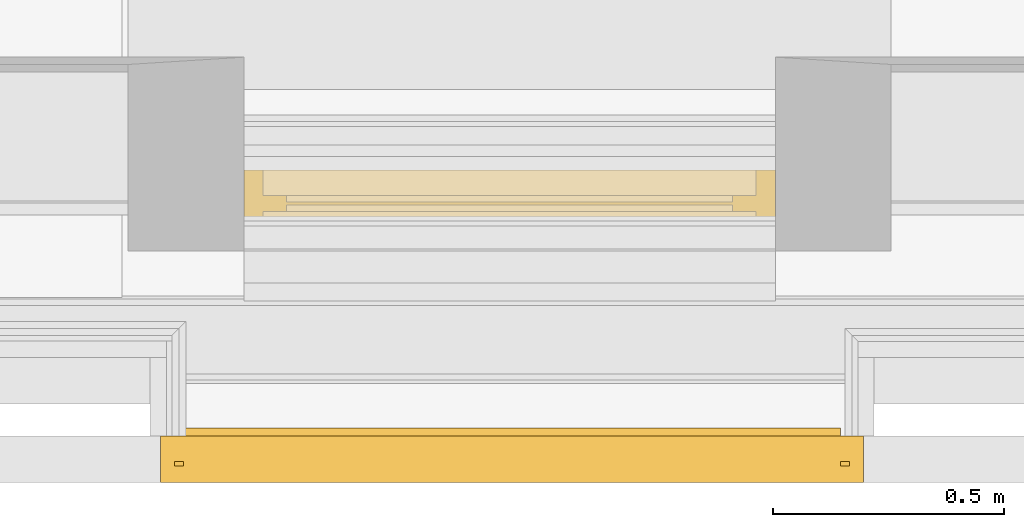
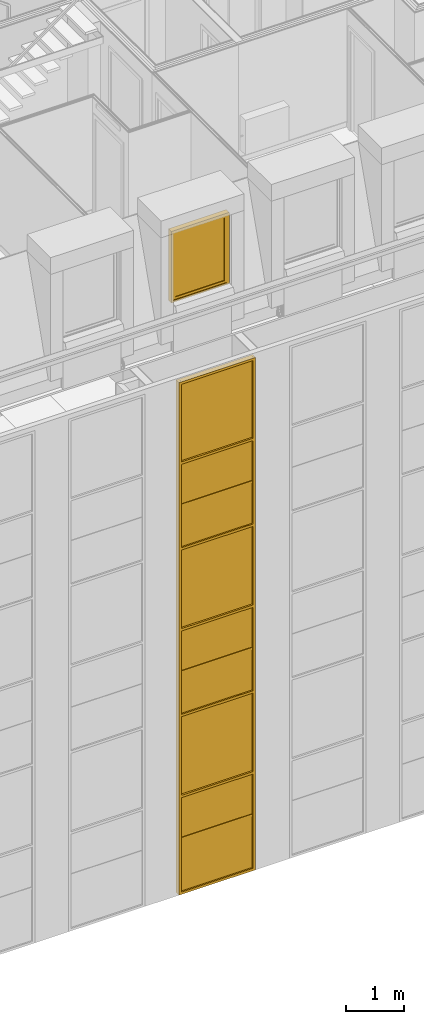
# One storey, part 93 of 169: 1 curtain wall, 1 window.
"""IFC2X3 building model written with IfcOpenShell, lengths in metres."""

import ifcopenshell
import ifcopenshell.guid

model = None  # the IFC model being written
_history = None  # IfcOwnerHistory: only IFC2X3 demands one
_inside = {}  # id of a spatial element -> (the spatial element, [elements in it])
_under = {}  # id of a project, library or spatial element -> (it, [spatial elements below it])
_declared = {}  # id of a project -> (the project, [libraries it declares])
_typed = {}  # id of a type object -> (the type object, [elements of that type])
_made_of = {}  # id of a material, layer set ... -> (it, [elements and type objects made of it])


def new_model(schema):
    """Start an empty IFC model of exactly this schema.

    Asked for "IFC4X3", IfcOpenShell would pick the latest addendum, in which some entities
    have other attributes; the version numbers below select the first issue.
    IFC2X3 requires an IfcOwnerHistory on every rooted entity: one is made here for all.
    """
    global model, _history
    if schema == "IFC4X3":
        model = ifcopenshell.file(schema_version=(4, 3, 0, 0))
    else:
        model = ifcopenshell.file(schema=schema)
    _inside.clear()
    _under.clear()
    _declared.clear()
    _typed.clear()
    _made_of.clear()
    _history = None
    if model.schema == "IFC2X3":
        org = make("IfcOrganization", Name="unknown")
        user = make(
            "IfcPersonAndOrganization",
            ThePerson=make("IfcPerson", FamilyName="unknown"),
            TheOrganization=org,
        )
        app = make(
            "IfcApplication",
            ApplicationDeveloper=org,
            Version="unknown",
            ApplicationFullName="unknown",
            ApplicationIdentifier="unknown",
        )
        _history = make(
            "IfcOwnerHistory",
            OwningUser=user,
            OwningApplication=app,
            ChangeAction="ADDED",
            CreationDate=0,
        )
    return model


def make(cls, **values):
    """One entity of the class cls with the attributes given. An attribute that is None is left unset."""
    return model.create_entity(
        cls, **{name: value for name, value in values.items() if value is not None}
    )


def entity(cls, *values):
    """Any entity or typed value of the class cls, its attributes in the order of the schema. None: left unset."""
    e = model.create_entity(cls)
    for i, value in enumerate(values):
        if value is not None:
            e[i] = value
    return e


def rooted(cls, **values):
    """An entity with a GlobalId (a new one), such as an element, a storey or a relation."""
    return make(cls, GlobalId=ifcopenshell.guid.new(), OwnerHistory=_history, **values)


def si_unit(unit_type, name, prefix=None):
    """IfcSIUnit, for example si_unit("LENGTHUNIT", "METRE", prefix="MILLI")."""
    return make("IfcSIUnit", UnitType=unit_type, Prefix=prefix, Name=name)


def converted_unit(unit_type, name, factor, base, dimensions=None, offset=None):
    """IfcConversionBasedUnit, such as the inch: factor (a typed value) times the base unit."""
    return make(
        "IfcConversionBasedUnit"
        if offset is None
        else "IfcConversionBasedUnitWithOffset",
        ConversionOffset=offset,
        Dimensions=None
        if dimensions is None
        else entity("IfcDimensionalExponents", *dimensions),
        UnitType=unit_type,
        Name=name,
        ConversionFactor=make(
            "IfcMeasureWithUnit", ValueComponent=factor, UnitComponent=base
        ),
    )


def derived_unit(unit_type, elements):
    """IfcDerivedUnit: a product of units, each with its exponent."""
    return make(
        "IfcDerivedUnit",
        Elements=[
            make("IfcDerivedUnitElement", Unit=unit, Exponent=power)
            for unit, power in elements
        ],
        UnitType=unit_type,
    )


def money_unit(currency):
    """IfcMonetaryUnit."""
    return make("IfcMonetaryUnit", Currency=currency)


def assignment(units):
    """IfcUnitAssignment: the units of a project."""
    return None if units is None else make("IfcUnitAssignment", Units=units)


def point(xyz):
    """IfcCartesianPoint."""
    return None if xyz is None else make("IfcCartesianPoint", Coordinates=xyz)


def direction(xyz):
    """IfcDirection."""
    return None if xyz is None else make("IfcDirection", DirectionRatios=xyz)


def frame(location, z_axis=None, x_axis=None):
    """IfcAxis2Placement3D, a coordinate frame: its origin and axes. An axis left out is left unset."""
    return make(
        "IfcAxis2Placement3D",
        Location=point(location),
        Axis=direction(z_axis),
        RefDirection=direction(x_axis),
    )


def origin_with_axes():
    """The frame at (0, 0, 0) with the z axis (0, 0, 1) and the x axis (1, 0, 0) written out."""
    return frame((0.0, 0.0, 0.0), z_axis=(0.0, 0.0, 1.0), x_axis=(1.0, 0.0, 0.0))


def place(relative_to, where):
    """IfcLocalPlacement: puts the frame where relative to a parent placement (None: the world)."""
    return make(
        "IfcLocalPlacement", PlacementRelTo=relative_to, RelativePlacement=where
    )


def context(
    kind, dimensions, precision=None, world=None, true_north=None, identifier=None
):
    """IfcGeometricRepresentationContext, for example the 3D "Model" context."""
    return make(
        "IfcGeometricRepresentationContext",
        ContextIdentifier=identifier,
        ContextType=kind,
        CoordinateSpaceDimension=dimensions,
        Precision=precision,
        WorldCoordinateSystem=world,
        TrueNorth=true_north,
    )


def subcontext(parent, identifier, kind, view, scale=None):
    """IfcGeometricRepresentationSubContext, for example "Body" below "Model"."""
    return make(
        "IfcGeometricRepresentationSubContext",
        ContextIdentifier=identifier,
        ContextType=kind,
        ParentContext=parent,
        TargetScale=scale,
        TargetView=view,
    )


def project(units=None, contexts=None):
    """IfcProject with its units and contexts."""
    return rooted(
        "IfcProject",
        Name="project",
        RepresentationContexts=contexts,
        UnitsInContext=assignment(units),
    )


def spatial(cls, under=None, at=None, **own):
    """A site, building, storey or space (cls), placed at a placement, below another one or the project."""
    s = rooted(cls, ObjectPlacement=at, **own)
    if under is not None:
        _under.setdefault(under.id(), (under, []))[1].append(s)
    return s


def faces_of(points, faces, orient=None, outer=None):
    """IfcFace entities. A face is a list of loops; a loop is a list of indices into points, from 0.

    orient and outer hold one flag for each loop. By default every Orientation is true, the
    first loop of a face is its IfcFaceOuterBound and the others are IfcFaceBound.
    """
    made = []
    for i, loops in enumerate(faces):
        bounds = []
        for j, loop in enumerate(loops):
            is_outer = j == 0 if outer is None else outer[i][j]
            bounds.append(
                make(
                    "IfcFaceOuterBound" if is_outer else "IfcFaceBound",
                    Bound=make("IfcPolyLoop", Polygon=[points[k] for k in loop]),
                    Orientation=True if orient is None else orient[i][j],
                )
            )
        made.append(make("IfcFace", Bounds=bounds))
    return made


def faceted_brep(points, faces, orient=None, outer=None, voids=None):
    """IfcFacetedBrep: a solid bounded by flat faces; with voids (closed shells), ...WithVoids."""
    shared = [point(p) for p in points]
    hull = make("IfcClosedShell", CfsFaces=faces_of(shared, faces, orient, outer))
    if voids is None:
        return make("IfcFacetedBrep", Outer=hull)
    return make(
        "IfcFacetedBrepWithVoids",
        Outer=hull,
        Voids=[
            make(cls, CfsFaces=faces_of(shared, fs, o, b)) for cls, fs, o, b in voids
        ],
    )


def shape(context_of_items, identifier, shape_type, items):
    """IfcShapeRepresentation: the items that make up one representation, for example the "Body"."""
    return make(
        "IfcShapeRepresentation",
        ContextOfItems=context_of_items,
        RepresentationIdentifier=identifier,
        RepresentationType=shape_type,
        Items=items,
    )


def material(Name=None, Category=None):
    """IfcMaterial."""
    return make("IfcMaterial", Name=Name, Category=Category)


def made_of(thing, what):
    """Note that an element or type object is made of a material, layer set ...; save() writes the relation."""
    if what is not None:
        _made_of.setdefault(what.id(), (what, []))[1].append(thing)
    return thing


def type_object(cls, material=None, **own):
    """A type object (cls), such as IfcWallType, which elements share."""
    return made_of(rooted(cls, **own), material)


def element(
    cls,
    number,
    at=None,
    inside=None,
    cuts=None,
    type_object=None,
    material=None,
    context=None,
    identifier="Body",
    shape_type=None,
    held_by="IfcProductDefinitionShape",
    body=None,
    shapes=None,
    **own,
):
    """One element of the class cls, such as IfcWall. Its Tag is "e" and its number.

    at: its placement. inside: the storey or other place that contains it. cuts: it is an
    opening in that element (IfcRelVoidsElement). A single representation is given by context,
    identifier, shape_type and body (its items); several are given by shapes. held_by: the class
    of the entity that holds the representations. save() writes the other relations.
    """
    e = rooted(cls, Tag="e%d" % number, ObjectPlacement=at, **own)
    if body is not None:
        shapes = [shape(context, identifier, shape_type, body)]
    if shapes is not None:
        e.Representation = make(held_by, Representations=shapes)
    if inside is not None:
        _inside.setdefault(inside.id(), (inside, []))[1].append(e)
    if cuts is not None:
        rooted(
            "IfcRelVoidsElement", RelatingBuildingElement=cuts, RelatedOpeningElement=e
        )
    if type_object is not None:
        _typed.setdefault(type_object.id(), (type_object, []))[1].append(e)
    return made_of(e, material)


def aggregate(whole, parts):
    """IfcRelAggregates: a whole, such as a stair, and the parts it consists of."""
    return rooted("IfcRelAggregates", RelatingObject=whole, RelatedObjects=parts)


def save(model, path):
    """Write the relations noted so far, then the file.

    IfcRelAggregates (storeys below a building ...), IfcRelContainedInSpatialStructure (elements
    in a storey), IfcRelDefinesByType, IfcRelAssociatesMaterial and IfcRelDeclares: one each for
    every whole, place, type object, material and project.
    """
    for whole, parts in _under.values():
        aggregate(whole, parts)
    for where, things in _inside.values():
        rooted(
            "IfcRelContainedInSpatialStructure",
            RelatedElements=things,
            RelatingStructure=where,
        )
    for kind, things in _typed.values():
        rooted("IfcRelDefinesByType", RelatedObjects=things, RelatingType=kind)
    for what, things in _made_of.values():
        rooted("IfcRelAssociatesMaterial", RelatedObjects=things, RelatingMaterial=what)
    for by, libraries in _declared.values():
        rooted("IfcRelDeclares", RelatingContext=by, RelatedDefinitions=libraries)
    model.write(path)


model = new_model("IFC2X3")

# Units and contexts
model_context = context("Model", 3, precision=1e-05, world=origin_with_axes(), true_north=direction((0.0, 1.0)))
body_context = subcontext(model_context, "Body", "Model", "MODEL_VIEW", scale=1.0)
ifc_project = project(units=[si_unit("LENGTHUNIT", "METRE"), si_unit("AREAUNIT", "SQUARE_METRE"), si_unit("VOLUMEUNIT", "CUBIC_METRE"), si_unit("ABSORBEDDOSEUNIT", "GRAY"), si_unit("AMOUNTOFSUBSTANCEUNIT", "MOLE"), si_unit("DOSEEQUIVALENTUNIT", "SIEVERT"), si_unit("ELECTRICCAPACITANCEUNIT", "FARAD"), si_unit("ELECTRICCHARGEUNIT", "COULOMB"), si_unit("ELECTRICCONDUCTANCEUNIT", "SIEMENS"), si_unit("ELECTRICCURRENTUNIT", "AMPERE"), si_unit("ELECTRICRESISTANCEUNIT", "OHM"), si_unit("ELECTRICVOLTAGEUNIT", "VOLT"), si_unit("ENERGYUNIT", "JOULE"), si_unit("FORCEUNIT", "NEWTON"), si_unit("FREQUENCYUNIT", "HERTZ"), si_unit("ILLUMINANCEUNIT", "LUX"), si_unit("INDUCTANCEUNIT", "HENRY"), si_unit("LUMINOUSFLUXUNIT", "LUMEN"), si_unit("LUMINOUSINTENSITYUNIT", "CANDELA"), si_unit("MAGNETICFLUXDENSITYUNIT", "TESLA"), si_unit("MAGNETICFLUXUNIT", "WEBER"), si_unit("MASSUNIT", "GRAM"), converted_unit("PLANEANGLEUNIT", "degree", entity("IfcReal", 0.0174532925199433), si_unit("PLANEANGLEUNIT", "RADIAN"), dimensions=[0, 0, 0, 0, 0, 0, 0]), si_unit("POWERUNIT", "WATT"), si_unit("PRESSUREUNIT", "PASCAL"), si_unit("RADIOACTIVITYUNIT", "BECQUEREL"), si_unit("SOLIDANGLEUNIT", "STERADIAN"), si_unit("THERMODYNAMICTEMPERATUREUNIT", "KELVIN"), si_unit("TIMEUNIT", "SECOND"), derived_unit("ACCELERATIONUNIT", [(si_unit("LENGTHUNIT", "METRE"), 1), (si_unit("TIMEUNIT", "SECOND"), -2)]), derived_unit("ANGULARVELOCITYUNIT", [(converted_unit("PLANEANGLEUNIT", "degree", entity("IfcReal", 0.0174532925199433), si_unit("PLANEANGLEUNIT", "RADIAN"), dimensions=[0, 0, 0, 0, 0, 0, 0]), 1), (si_unit("TIMEUNIT", "SECOND"), -1)]), derived_unit("CURVATUREUNIT", [(converted_unit("PLANEANGLEUNIT", "degree", entity("IfcReal", 0.0174532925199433), si_unit("PLANEANGLEUNIT", "RADIAN"), dimensions=[0, 0, 0, 0, 0, 0, 0]), 1), (si_unit("LENGTHUNIT", "METRE"), -1)]), derived_unit("DYNAMICVISCOSITYUNIT", [(si_unit("PRESSUREUNIT", "PASCAL"), 1), (si_unit("TIMEUNIT", "SECOND"), 1)]), derived_unit("HEATFLUXDENSITYUNIT", [(si_unit("POWERUNIT", "WATT"), 1), (si_unit("LENGTHUNIT", "METRE"), -2)]), derived_unit("HEATINGVALUEUNIT", [(si_unit("ENERGYUNIT", "JOULE"), 1), (si_unit("MASSUNIT", "GRAM"), -1)]), derived_unit("INTEGERCOUNTRATEUNIT", [(si_unit("TIMEUNIT", "SECOND"), -1)]), derived_unit("IONCONCENTRATIONUNIT", [(si_unit("MASSUNIT", "GRAM"), 1), (si_unit("VOLUMEUNIT", "CUBIC_METRE"), -1)]), derived_unit("ISOTHERMALMOISTURECAPACITYUNIT", [(si_unit("VOLUMEUNIT", "CUBIC_METRE"), 1), (si_unit("MASSUNIT", "GRAM"), -1)]), derived_unit("KINEMATICVISCOSITYUNIT", [(si_unit("AREAUNIT", "SQUARE_METRE"), 1), (si_unit("TIMEUNIT", "SECOND"), -1)]), derived_unit("LINEARFORCEUNIT", [(si_unit("FORCEUNIT", "NEWTON"), 1), (si_unit("LENGTHUNIT", "METRE"), -1)]), derived_unit("LINEARMOMENTUNIT", [(si_unit("FORCEUNIT", "NEWTON"), 1), (si_unit("LENGTHUNIT", "METRE"), -1)]), derived_unit("LINEARSTIFFNESSUNIT", [(si_unit("FORCEUNIT", "NEWTON"), 1), (si_unit("LENGTHUNIT", "METRE"), -1)]), derived_unit("LINEARVELOCITYUNIT", [(si_unit("LENGTHUNIT", "METRE"), 1), (si_unit("TIMEUNIT", "SECOND"), -1)]), derived_unit("LUMINOUSINTENSITYDISTRIBUTIONUNIT", [(si_unit("LUMINOUSINTENSITYUNIT", "CANDELA"), 1), (si_unit("LUMINOUSFLUXUNIT", "LUMEN"), -1)]), derived_unit("MASSDENSITYUNIT", [(si_unit("MASSUNIT", "GRAM"), 1), (si_unit("VOLUMEUNIT", "CUBIC_METRE"), -1)]), derived_unit("MASSFLOWRATEUNIT", [(si_unit("MASSUNIT", "GRAM"), 1), (si_unit("TIMEUNIT", "SECOND"), -1)]), derived_unit("MASSPERLENGTHUNIT", [(si_unit("MASSUNIT", "GRAM"), 1), (si_unit("LENGTHUNIT", "METRE"), -1)]), derived_unit("MODULUSOFELASTICITYUNIT", [(si_unit("FORCEUNIT", "NEWTON"), 1), (si_unit("AREAUNIT", "SQUARE_METRE"), -1)]), derived_unit("MODULUSOFLINEARSUBGRADEREACTIONUNIT", [(si_unit("FORCEUNIT", "NEWTON"), 1), (si_unit("LENGTHUNIT", "METRE"), -2)]), derived_unit("MODULUSOFROTATIONALSUBGRADEREACTIONUNIT", [(si_unit("FORCEUNIT", "NEWTON"), 1), (si_unit("LENGTHUNIT", "METRE"), 1)]), derived_unit("MODULUSOFSUBGRADEREACTIONUNIT", [(si_unit("FORCEUNIT", "NEWTON"), 1), (si_unit("VOLUMEUNIT", "CUBIC_METRE"), -1)]), derived_unit("MOISTUREDIFFUSIVITYUNIT", [(si_unit("VOLUMEUNIT", "CUBIC_METRE"), 1), (si_unit("TIMEUNIT", "SECOND"), -1)]), derived_unit("MOLECULARWEIGHTUNIT", [(si_unit("MASSUNIT", "GRAM"), 1), (si_unit("AMOUNTOFSUBSTANCEUNIT", "MOLE"), -1)]), derived_unit("PLANARFORCEUNIT", [(si_unit("FORCEUNIT", "NEWTON"), 1), (si_unit("LENGTHUNIT", "METRE"), -2)]), derived_unit("ROTATIONALFREQUENCYUNIT", [(si_unit("TIMEUNIT", "SECOND"), -1)]), derived_unit("ROTATIONALMASSUNIT", [(si_unit("MASSUNIT", "GRAM"), 1), (si_unit("LENGTHUNIT", "METRE"), 2)]), derived_unit("ROTATIONALSTIFFNESSUNIT", [(si_unit("FORCEUNIT", "NEWTON"), 1), (si_unit("LENGTHUNIT", "METRE"), 1), (converted_unit("PLANEANGLEUNIT", "degree", entity("IfcReal", 0.0174532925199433), si_unit("PLANEANGLEUNIT", "RADIAN"), dimensions=[0, 0, 0, 0, 0, 0, 0]), -1)]), derived_unit("SECTIONAREAINTEGRALUNIT", [(si_unit("LENGTHUNIT", "METRE"), 5)]), derived_unit("SECTIONMODULUSUNIT", [(si_unit("LENGTHUNIT", "METRE"), 3)]), derived_unit("SHEARMODULUSUNIT", [(si_unit("FORCEUNIT", "NEWTON"), 1), (si_unit("AREAUNIT", "SQUARE_METRE"), -1)]), derived_unit("SOUNDPOWERUNIT", [(si_unit("ENERGYUNIT", "JOULE"), 1), (si_unit("TIMEUNIT", "SECOND"), -1)]), derived_unit("SPECIFICHEATCAPACITYUNIT", [(si_unit("FORCEUNIT", "NEWTON"), 1), (si_unit("MASSUNIT", "GRAM"), -1), (si_unit("THERMODYNAMICTEMPERATUREUNIT", "KELVIN"), -1)]), derived_unit("TEMPERATUREGRADIENTUNIT", [(si_unit("THERMODYNAMICTEMPERATUREUNIT", "KELVIN"), 1), (si_unit("LENGTHUNIT", "METRE"), -1)]), derived_unit("THERMALADMITTANCEUNIT", [(si_unit("POWERUNIT", "WATT"), 1), (si_unit("AREAUNIT", "SQUARE_METRE"), -1), (si_unit("THERMODYNAMICTEMPERATUREUNIT", "KELVIN"), -1)]), derived_unit("THERMALCONDUCTANCEUNIT", [(si_unit("POWERUNIT", "WATT"), 1), (si_unit("LENGTHUNIT", "METRE"), -1), (si_unit("THERMODYNAMICTEMPERATUREUNIT", "KELVIN"), -1)]), derived_unit("THERMALEXPANSIONCOEFFICIENTUNIT", [(si_unit("THERMODYNAMICTEMPERATUREUNIT", "KELVIN"), -1)]), derived_unit("THERMALRESISTANCEUNIT", [(si_unit("AREAUNIT", "SQUARE_METRE"), 1), (si_unit("POWERUNIT", "WATT"), -1)]), derived_unit("THERMALTRANSMITTANCEUNIT", [(si_unit("POWERUNIT", "WATT"), 1), (si_unit("AREAUNIT", "SQUARE_METRE"), -1), (si_unit("THERMODYNAMICTEMPERATUREUNIT", "KELVIN"), -1)]), derived_unit("TORQUEUNIT", [(si_unit("FORCEUNIT", "NEWTON"), 1), (si_unit("LENGTHUNIT", "METRE"), 1)]), derived_unit("VAPORPERMEABILITYUNIT", [(si_unit("MASSUNIT", "GRAM"), 1), (si_unit("TIMEUNIT", "SECOND"), -1)]), derived_unit("VOLUMETRICFLOWRATEUNIT", [(si_unit("VOLUMEUNIT", "CUBIC_METRE"), 1), (si_unit("TIMEUNIT", "SECOND"), -1)]), derived_unit("WARPINGCONSTANTUNIT", [(si_unit("LENGTHUNIT", "METRE"), 6)]), derived_unit("WARPINGMOMENTUNIT", [(si_unit("FORCEUNIT", "NEWTON"), 1), (si_unit("LENGTHUNIT", "METRE"), 2)]), money_unit("GBP")], contexts=[model_context])

# Site, building, storey
site_placement = place(None, origin_with_axes())
site = spatial("IfcSite", under=ifc_project, at=site_placement, Name="Site", CompositionType="ELEMENT")
building_placement = place(site_placement, origin_with_axes())
building = spatial("IfcBuilding", under=site, at=building_placement, Name="Building01", CompositionType="ELEMENT")
storey_placement = place(building_placement, frame((0.0, 0.0, 5.15), z_axis=(0.0, 0.0, 1.0), x_axis=(1.0, 0.0, 0.0)))
storey = spatial("IfcBuildingStorey", under=building, at=storey_placement, Name="1F", CompositionType="ELEMENT", Elevation=5.15)

# Curtain wall
ifc_material_1 = material(Name="A-CurtainWall_Frame")
curtain_wall_type = type_object("IfcCurtainWallType", Name="Pattern - Maximum Spacing", PredefinedType="NOTDEFINED")
curtain_wall_placement = place(storey_placement, frame((0.0, 0.0, -5.15), z_axis=(0.0, 0.0, 1.0), x_axis=(1.0, 0.0, 0.0)))
element("IfcCurtainWall", 1, at=curtain_wall_placement, inside=storey, type_object=curtain_wall_type, material=ifc_material_1, Name="18", ObjectType="Pattern - Maximum Spacing", context=body_context, shape_type="Brep", body=[
    faceted_brep([(5.11, 0.05, 4.0), (5.11, 0.03, 4.0), (5.11, 0.03, 5.118945), (5.11, 0.05, 5.118945), (6.57, 0.05, 4.0), (6.57, 0.03, 4.0), (6.57, 0.05, 5.118945), (6.57, 0.03, 5.118945)], [[[0, 1, 2, 3]], [[4, 5, 1, 0]], [[6, 7, 5, 4]], [[3, 2, 7, 6]], [[1, 5, 7, 2]], [[3, 6, 4, 0]]]),
    faceted_brep([(5.13, 0.045, 3.97), (5.11, 0.045, 3.97), (5.11, 0.035, 3.97), (5.13, 0.035, 3.97), (5.13, 0.0, 3.97), (5.08, 0.0, 3.97), (5.08, 0.1, 3.97), (5.13, 0.1, 3.97), (5.13, 0.1, 5.123945), (5.13, 0.045, 5.123945), (5.11, 0.045, 5.123945), (5.11, 0.035, 5.123945), (5.13, 0.035, 5.123945), (5.13, 0.0, 5.123945), (5.08, 0.0, 5.123945), (5.08, 0.1, 5.123945)], [[[0, 1, 2, 3, 4, 5, 6, 7]], [[7, 8, 9, 0]], [[0, 9, 10, 1]], [[1, 10, 11, 2]], [[2, 11, 12, 3]], [[3, 12, 13, 4]], [[4, 13, 14, 5]], [[5, 14, 15, 6]], [[6, 15, 8, 7]]]),
    faceted_brep([(6.55, 0.045, 4.0), (6.55, 0.035, 4.0), (6.55, 0.035, 4.02), (6.55, 0.0, 4.02), (6.55, 0.0, 3.97), (6.55, 0.1, 3.97), (6.55, 0.1, 4.02), (6.55, 0.045, 4.02), (5.13, 0.045, 4.02), (5.13, 0.045, 4.0), (5.13, 0.035, 4.0), (5.13, 0.035, 4.02), (5.13, 0.0, 4.02), (5.13, 0.0, 3.97), (5.13, 0.1, 3.97), (5.13, 0.1, 4.02)], [[[0, 1, 2, 3, 4, 5, 6, 7]], [[7, 8, 9, 0]], [[0, 9, 10, 1]], [[1, 10, 11, 2]], [[2, 11, 12, 3]], [[3, 12, 13, 4]], [[4, 13, 14, 5]], [[5, 14, 15, 6]], [[6, 15, 8, 7]], [[8, 15, 14, 13, 12, 11, 10, 9]]]),
    faceted_brep([(6.55, 0.045, 3.97), (6.55, 0.045, 5.123945), (6.55, 0.1, 5.123945), (6.55, 0.1, 3.97), (6.57, 0.045, 3.97), (6.57, 0.045, 5.123945), (6.57, 0.035, 3.97), (6.57, 0.035, 5.123945), (6.55, 0.035, 3.97), (6.55, 0.035, 5.123945), (6.55, 0.0, 3.97), (6.55, 0.0, 5.123945), (6.6, 0.0, 3.97), (6.6, 0.0, 5.123945), (6.6, 0.1, 3.97), (6.6, 0.1, 5.123945)], [[[0, 1, 2, 3]], [[4, 5, 1, 0]], [[6, 7, 5, 4]], [[8, 9, 7, 6]], [[10, 11, 9, 8]], [[12, 13, 11, 10]], [[14, 15, 13, 12]], [[3, 2, 15, 14]], [[14, 12, 10, 8, 6, 4, 0, 3]]]),
    faceted_brep([(5.13, 0.0625, 5.118945), (5.13, 0.0525, 5.118945), (5.13, 0.0525, 5.098945), (5.13, 0.0175, 5.098945), (5.13, 0.0175, 5.148945), (5.13, 0.0525, 5.148945), (5.13, 0.0525, 5.128945), (5.13, 0.0625, 5.128945), (5.13, 0.0625, 5.148945), (5.13, 0.1175, 5.148945), (5.13, 0.1175, 5.098945), (5.13, 0.0625, 5.098945), (6.55, 0.0625, 5.098945), (6.55, 0.0625, 5.118945), (6.55, 0.0525, 5.118945), (6.55, 0.0525, 5.098945), (6.55, 0.0175, 5.098945), (6.55, 0.0175, 5.148945), (6.55, 0.0525, 5.148945), (6.55, 0.0625, 5.128945), (6.55, 0.0625, 5.148945), (6.55, 0.0525, 5.128945), (6.55, 0.1175, 5.098945), (6.55, 0.1175, 5.148945)], [[[0, 1, 2, 3, 4, 5, 6, 7, 8, 9, 10, 11]], [[11, 12, 13, 0]], [[0, 13, 14, 1]], [[1, 14, 15, 2]], [[2, 15, 16, 3]], [[3, 16, 17, 4]], [[4, 17, 18, 5]], [[7, 19, 20, 8]], [[6, 21, 19, 7]], [[5, 18, 21, 6]], [[10, 22, 12, 11]], [[9, 23, 22, 10]], [[8, 20, 23, 9]], [[20, 19, 21, 18, 17, 16, 15, 14, 13, 12, 22, 23]]]),
    faceted_brep([(5.11, 0.05, 5.128945), (5.11, 0.03, 5.128945), (5.11, 0.03, 6.018105), (5.11, 0.05, 6.018105), (6.57, 0.05, 5.128945), (6.57, 0.03, 5.128945), (6.57, 0.05, 6.018105), (6.57, 0.03, 6.018105)], [[[0, 1, 2, 3]], [[4, 5, 1, 0]], [[6, 7, 5, 4]], [[3, 2, 7, 6]], [[1, 5, 7, 2]], [[3, 6, 4, 0]]]),
    faceted_brep([(5.08, 0.1, 6.023105), (5.08, 0.1, 5.123945), (5.08, 0.0, 5.123945), (5.08, 0.0, 6.023105), (5.13, 0.1, 6.023105), (5.13, 0.1, 5.123945), (5.13, 0.045, 6.023105), (5.13, 0.045, 5.123945), (5.11, 0.045, 6.023105), (5.11, 0.045, 5.123945), (5.11, 0.035, 6.023105), (5.11, 0.035, 5.123945), (5.13, 0.035, 6.023105), (5.13, 0.035, 5.123945), (5.13, 0.0, 6.023105), (5.13, 0.0, 5.123945)], [[[0, 1, 2, 3]], [[4, 5, 1, 0]], [[6, 7, 5, 4]], [[8, 9, 7, 6]], [[10, 11, 9, 8]], [[12, 13, 11, 10]], [[14, 15, 13, 12]], [[3, 2, 15, 14]]]),
    faceted_brep([(6.55, 0.045, 5.123945), (6.55, 0.045, 6.023105), (6.55, 0.1, 6.023105), (6.55, 0.1, 5.123945), (6.57, 0.045, 5.123945), (6.57, 0.045, 6.023105), (6.57, 0.035, 5.123945), (6.57, 0.035, 6.023105), (6.55, 0.035, 5.123945), (6.55, 0.035, 6.023105), (6.55, 0.0, 5.123945), (6.55, 0.0, 6.023105), (6.6, 0.0, 5.123945), (6.6, 0.0, 6.023105), (6.6, 0.1, 5.123945), (6.6, 0.1, 6.023105)], [[[0, 1, 2, 3]], [[4, 5, 1, 0]], [[6, 7, 5, 4]], [[8, 9, 7, 6]], [[10, 11, 9, 8]], [[12, 13, 11, 10]], [[14, 15, 13, 12]], [[3, 2, 15, 14]]]),
    faceted_brep([(5.13, 0.045, 6.018105), (5.13, 0.035, 6.018105), (5.13, 0.035, 5.998105), (5.13, 0.0, 5.998105), (5.13, 0.0, 6.048105), (5.13, 0.035, 6.048105), (5.13, 0.035, 6.028105), (5.13, 0.045, 6.028105), (5.13, 0.045, 6.048105), (5.13, 0.1, 6.048105), (5.13, 0.1, 5.998105), (5.13, 0.045, 5.998105), (6.55, 0.045, 5.998105), (6.55, 0.045, 6.018105), (6.55, 0.035, 6.018105), (6.55, 0.035, 5.998105), (6.55, 0.0, 5.998105), (6.55, 0.0, 6.048105), (6.55, 0.035, 6.048105), (6.55, 0.045, 6.028105), (6.55, 0.045, 6.048105), (6.55, 0.035, 6.028105), (6.55, 0.1, 5.998105), (6.55, 0.1, 6.048105)], [[[0, 1, 2, 3, 4, 5, 6, 7, 8, 9, 10, 11]], [[11, 12, 13, 0]], [[0, 13, 14, 1]], [[1, 14, 15, 2]], [[2, 15, 16, 3]], [[3, 16, 17, 4]], [[4, 17, 18, 5]], [[7, 19, 20, 8]], [[6, 21, 19, 7]], [[5, 18, 21, 6]], [[10, 22, 12, 11]], [[9, 23, 22, 10]], [[8, 20, 23, 9]], [[20, 19, 21, 18, 17, 16, 15, 14, 13, 12, 22, 23]]]),
    faceted_brep([(5.11, 0.045, 6.028105), (5.11, 0.035, 6.028105), (5.11, 0.035, 7.716517), (5.11, 0.045, 7.716517), (6.57, 0.045, 6.028105), (6.57, 0.035, 6.028105), (6.57, 0.045, 7.716517), (6.57, 0.035, 7.716517)], [[[0, 1, 2, 3]], [[4, 5, 1, 0]], [[6, 7, 5, 4]], [[3, 2, 7, 6]], [[1, 5, 7, 2]], [[3, 6, 4, 0]]]),
    faceted_brep([(5.08, 0.1, 7.721517), (5.08, 0.1, 6.023105), (5.08, 0.0, 6.023105), (5.08, 0.0, 7.721517), (5.13, 0.1, 7.721517), (5.13, 0.1, 6.023105), (5.13, 0.045, 7.721517), (5.13, 0.045, 6.023105), (5.11, 0.045, 7.721517), (5.11, 0.045, 6.023105), (5.11, 0.035, 7.721517), (5.11, 0.035, 6.023105), (5.13, 0.035, 7.721517), (5.13, 0.035, 6.023105), (5.13, 0.0, 7.721517), (5.13, 0.0, 6.023105)], [[[0, 1, 2, 3]], [[4, 5, 1, 0]], [[6, 7, 5, 4]], [[8, 9, 7, 6]], [[10, 11, 9, 8]], [[12, 13, 11, 10]], [[14, 15, 13, 12]], [[3, 2, 15, 14]]]),
    faceted_brep([(6.55, 0.045, 6.023105), (6.55, 0.045, 7.721517), (6.55, 0.1, 7.721517), (6.55, 0.1, 6.023105), (6.57, 0.045, 6.023105), (6.57, 0.045, 7.721517), (6.57, 0.035, 6.023105), (6.57, 0.035, 7.721517), (6.55, 0.035, 6.023105), (6.55, 0.035, 7.721517), (6.55, 0.0, 6.023105), (6.55, 0.0, 7.721517), (6.6, 0.0, 6.023105), (6.6, 0.0, 7.721517), (6.6, 0.1, 6.023105), (6.6, 0.1, 7.721517)], [[[0, 1, 2, 3]], [[4, 5, 1, 0]], [[6, 7, 5, 4]], [[8, 9, 7, 6]], [[10, 11, 9, 8]], [[12, 13, 11, 10]], [[14, 15, 13, 12]], [[3, 2, 15, 14]]]),
    faceted_brep([(5.13, 0.045, 7.716517), (5.13, 0.035, 7.716517), (5.13, 0.035, 7.696517), (5.13, 0.0, 7.696517), (5.13, 0.0, 7.746517), (5.13, 0.035, 7.746517), (5.13, 0.035, 7.726517), (5.13, 0.045, 7.726517), (5.13, 0.045, 7.746517), (5.13, 0.1, 7.746517), (5.13, 0.1, 7.696517), (5.13, 0.045, 7.696517), (6.55, 0.045, 7.696517), (6.55, 0.045, 7.716517), (6.55, 0.035, 7.716517), (6.55, 0.035, 7.696517), (6.55, 0.0, 7.696517), (6.55, 0.0, 7.746517), (6.55, 0.035, 7.746517), (6.55, 0.045, 7.726517), (6.55, 0.045, 7.746517), (6.55, 0.035, 7.726517), (6.55, 0.1, 7.696517), (6.55, 0.1, 7.746517)], [[[0, 1, 2, 3, 4, 5, 6, 7, 8, 9, 10, 11]], [[11, 12, 13, 0]], [[0, 13, 14, 1]], [[1, 14, 15, 2]], [[2, 15, 16, 3]], [[3, 16, 17, 4]], [[4, 17, 18, 5]], [[7, 19, 20, 8]], [[6, 21, 19, 7]], [[5, 18, 21, 6]], [[10, 22, 12, 11]], [[9, 23, 22, 10]], [[8, 20, 23, 9]], [[20, 19, 21, 18, 17, 16, 15, 14, 13, 12, 22, 23]]]),
    faceted_brep([(5.11, 0.05, 7.726517), (5.11, 0.03, 7.726517), (5.11, 0.03, 8.615677), (5.11, 0.05, 8.615677), (6.57, 0.05, 7.726517), (6.57, 0.03, 7.726517), (6.57, 0.05, 8.615677), (6.57, 0.03, 8.615677)], [[[0, 1, 2, 3]], [[4, 5, 1, 0]], [[6, 7, 5, 4]], [[3, 2, 7, 6]], [[1, 5, 7, 2]], [[3, 6, 4, 0]]]),
    faceted_brep([(5.08, 0.1, 8.620677), (5.08, 0.1, 7.721517), (5.08, 0.0, 7.721517), (5.08, 0.0, 8.620677), (5.13, 0.1, 8.620677), (5.13, 0.1, 7.721517), (5.13, 0.045, 8.620677), (5.13, 0.045, 7.721517), (5.11, 0.045, 8.620677), (5.11, 0.045, 7.721517), (5.11, 0.035, 8.620677), (5.11, 0.035, 7.721517), (5.13, 0.035, 8.620677), (5.13, 0.035, 7.721517), (5.13, 0.0, 8.620677), (5.13, 0.0, 7.721517)], [[[0, 1, 2, 3]], [[4, 5, 1, 0]], [[6, 7, 5, 4]], [[8, 9, 7, 6]], [[10, 11, 9, 8]], [[12, 13, 11, 10]], [[14, 15, 13, 12]], [[3, 2, 15, 14]]]),
    faceted_brep([(6.55, 0.045, 7.721517), (6.55, 0.045, 8.620677), (6.55, 0.1, 8.620677), (6.55, 0.1, 7.721517), (6.57, 0.045, 7.721517), (6.57, 0.045, 8.620677), (6.57, 0.035, 7.721517), (6.57, 0.035, 8.620677), (6.55, 0.035, 7.721517), (6.55, 0.035, 8.620677), (6.55, 0.0, 7.721517), (6.55, 0.0, 8.620677), (6.6, 0.0, 7.721517), (6.6, 0.0, 8.620677), (6.6, 0.1, 7.721517), (6.6, 0.1, 8.620677)], [[[0, 1, 2, 3]], [[4, 5, 1, 0]], [[6, 7, 5, 4]], [[8, 9, 7, 6]], [[10, 11, 9, 8]], [[12, 13, 11, 10]], [[14, 15, 13, 12]], [[3, 2, 15, 14]]]),
    faceted_brep([(5.13, 0.0625, 8.615677), (5.13, 0.0525, 8.615677), (5.13, 0.0525, 8.595677), (5.13, 0.0175, 8.595677), (5.13, 0.0175, 8.645677), (5.13, 0.0525, 8.645677), (5.13, 0.0525, 8.625677), (5.13, 0.0625, 8.625677), (5.13, 0.0625, 8.645677), (5.13, 0.1175, 8.645677), (5.13, 0.1175, 8.595677), (5.13, 0.0625, 8.595677), (6.55, 0.0625, 8.595677), (6.55, 0.0625, 8.615677), (6.55, 0.0525, 8.615677), (6.55, 0.0525, 8.595677), (6.55, 0.0175, 8.595677), (6.55, 0.0175, 8.645677), (6.55, 0.0525, 8.645677), (6.55, 0.0625, 8.625677), (6.55, 0.0625, 8.645677), (6.55, 0.0525, 8.625677), (6.55, 0.1175, 8.595677), (6.55, 0.1175, 8.645677)], [[[0, 1, 2, 3, 4, 5, 6, 7, 8, 9, 10, 11]], [[11, 12, 13, 0]], [[0, 13, 14, 1]], [[1, 14, 15, 2]], [[2, 15, 16, 3]], [[3, 16, 17, 4]], [[4, 17, 18, 5]], [[7, 19, 20, 8]], [[6, 21, 19, 7]], [[5, 18, 21, 6]], [[10, 22, 12, 11]], [[9, 23, 22, 10]], [[8, 20, 23, 9]], [[20, 19, 21, 18, 17, 16, 15, 14, 13, 12, 22, 23]]]),
    faceted_brep([(5.11, 0.05, 8.625677), (5.11, 0.03, 8.625677), (5.11, 0.03, 9.514837), (5.11, 0.05, 9.514837), (6.57, 0.05, 8.625677), (6.57, 0.03, 8.625677), (6.57, 0.05, 9.514837), (6.57, 0.03, 9.514837)], [[[0, 1, 2, 3]], [[4, 5, 1, 0]], [[6, 7, 5, 4]], [[3, 2, 7, 6]], [[1, 5, 7, 2]], [[3, 6, 4, 0]]]),
    faceted_brep([(5.08, 0.1, 9.519837), (5.08, 0.1, 8.620677), (5.08, 0.0, 8.620677), (5.08, 0.0, 9.519837), (5.13, 0.1, 9.519837), (5.13, 0.1, 8.620677), (5.13, 0.045, 9.519837), (5.13, 0.045, 8.620677), (5.11, 0.045, 9.519837), (5.11, 0.045, 8.620677), (5.11, 0.035, 9.519837), (5.11, 0.035, 8.620677), (5.13, 0.035, 9.519837), (5.13, 0.035, 8.620677), (5.13, 0.0, 9.519837), (5.13, 0.0, 8.620677)], [[[0, 1, 2, 3]], [[4, 5, 1, 0]], [[6, 7, 5, 4]], [[8, 9, 7, 6]], [[10, 11, 9, 8]], [[12, 13, 11, 10]], [[14, 15, 13, 12]], [[3, 2, 15, 14]]]),
    faceted_brep([(6.55, 0.045, 8.620677), (6.55, 0.045, 9.519837), (6.55, 0.1, 9.519837), (6.55, 0.1, 8.620677), (6.57, 0.045, 8.620677), (6.57, 0.045, 9.519837), (6.57, 0.035, 8.620677), (6.57, 0.035, 9.519837), (6.55, 0.035, 8.620677), (6.55, 0.035, 9.519837), (6.55, 0.0, 8.620677), (6.55, 0.0, 9.519837), (6.6, 0.0, 8.620677), (6.6, 0.0, 9.519837), (6.6, 0.1, 8.620677), (6.6, 0.1, 9.519837)], [[[0, 1, 2, 3]], [[4, 5, 1, 0]], [[6, 7, 5, 4]], [[8, 9, 7, 6]], [[10, 11, 9, 8]], [[12, 13, 11, 10]], [[14, 15, 13, 12]], [[3, 2, 15, 14]]]),
    faceted_brep([(5.13, 0.045, 9.514837), (5.13, 0.035, 9.514837), (5.13, 0.035, 9.494837), (5.13, 0.0, 9.494837), (5.13, 0.0, 9.544837), (5.13, 0.035, 9.544837), (5.13, 0.035, 9.524837), (5.13, 0.045, 9.524837), (5.13, 0.045, 9.544837), (5.13, 0.1, 9.544837), (5.13, 0.1, 9.494837), (5.13, 0.045, 9.494837), (6.55, 0.045, 9.494837), (6.55, 0.045, 9.514837), (6.55, 0.035, 9.514837), (6.55, 0.035, 9.494837), (6.55, 0.0, 9.494837), (6.55, 0.0, 9.544837), (6.55, 0.035, 9.544837), (6.55, 0.045, 9.524837), (6.55, 0.045, 9.544837), (6.55, 0.035, 9.524837), (6.55, 0.1, 9.494837), (6.55, 0.1, 9.544837)], [[[0, 1, 2, 3, 4, 5, 6, 7, 8, 9, 10, 11]], [[11, 12, 13, 0]], [[0, 13, 14, 1]], [[1, 14, 15, 2]], [[2, 15, 16, 3]], [[3, 16, 17, 4]], [[4, 17, 18, 5]], [[7, 19, 20, 8]], [[6, 21, 19, 7]], [[5, 18, 21, 6]], [[10, 22, 12, 11]], [[9, 23, 22, 10]], [[8, 20, 23, 9]], [[20, 19, 21, 18, 17, 16, 15, 14, 13, 12, 22, 23]]]),
    faceted_brep([(5.11, 0.045, 9.524837), (5.11, 0.035, 9.524837), (5.11, 0.035, 11.213249), (5.11, 0.045, 11.213249), (6.57, 0.045, 9.524837), (6.57, 0.035, 9.524837), (6.57, 0.045, 11.213249), (6.57, 0.035, 11.213249)], [[[0, 1, 2, 3]], [[4, 5, 1, 0]], [[6, 7, 5, 4]], [[3, 2, 7, 6]], [[1, 5, 7, 2]], [[3, 6, 4, 0]]]),
    faceted_brep([(5.08, 0.1, 11.218249), (5.08, 0.1, 9.519837), (5.08, 0.0, 9.519837), (5.08, 0.0, 11.218249), (5.13, 0.1, 11.218249), (5.13, 0.1, 9.519837), (5.13, 0.045, 11.218249), (5.13, 0.045, 9.519837), (5.11, 0.045, 11.218249), (5.11, 0.045, 9.519837), (5.11, 0.035, 11.218249), (5.11, 0.035, 9.519837), (5.13, 0.035, 11.218249), (5.13, 0.035, 9.519837), (5.13, 0.0, 11.218249), (5.13, 0.0, 9.519837)], [[[0, 1, 2, 3]], [[4, 5, 1, 0]], [[6, 7, 5, 4]], [[8, 9, 7, 6]], [[10, 11, 9, 8]], [[12, 13, 11, 10]], [[14, 15, 13, 12]], [[3, 2, 15, 14]]]),
    faceted_brep([(6.55, 0.045, 9.519837), (6.55, 0.045, 11.218249), (6.55, 0.1, 11.218249), (6.55, 0.1, 9.519837), (6.57, 0.045, 9.519837), (6.57, 0.045, 11.218249), (6.57, 0.035, 9.519837), (6.57, 0.035, 11.218249), (6.55, 0.035, 9.519837), (6.55, 0.035, 11.218249), (6.55, 0.0, 9.519837), (6.55, 0.0, 11.218249), (6.6, 0.0, 9.519837), (6.6, 0.0, 11.218249), (6.6, 0.1, 9.519837), (6.6, 0.1, 11.218249)], [[[0, 1, 2, 3]], [[4, 5, 1, 0]], [[6, 7, 5, 4]], [[8, 9, 7, 6]], [[10, 11, 9, 8]], [[12, 13, 11, 10]], [[14, 15, 13, 12]], [[3, 2, 15, 14]]]),
    faceted_brep([(5.13, 0.045, 11.213249), (5.13, 0.035, 11.213249), (5.13, 0.035, 11.193249), (5.13, 0.0, 11.193249), (5.13, 0.0, 11.243249), (5.13, 0.035, 11.243249), (5.13, 0.035, 11.223249), (5.13, 0.045, 11.223249), (5.13, 0.045, 11.243249), (5.13, 0.1, 11.243249), (5.13, 0.1, 11.193249), (5.13, 0.045, 11.193249), (6.55, 0.045, 11.193249), (6.55, 0.045, 11.213249), (6.55, 0.035, 11.213249), (6.55, 0.035, 11.193249), (6.55, 0.0, 11.193249), (6.55, 0.0, 11.243249), (6.55, 0.035, 11.243249), (6.55, 0.045, 11.223249), (6.55, 0.045, 11.243249), (6.55, 0.035, 11.223249), (6.55, 0.1, 11.193249), (6.55, 0.1, 11.243249)], [[[0, 1, 2, 3, 4, 5, 6, 7, 8, 9, 10, 11]], [[11, 12, 13, 0]], [[0, 13, 14, 1]], [[1, 14, 15, 2]], [[2, 15, 16, 3]], [[3, 16, 17, 4]], [[4, 17, 18, 5]], [[7, 19, 20, 8]], [[6, 21, 19, 7]], [[5, 18, 21, 6]], [[10, 22, 12, 11]], [[9, 23, 22, 10]], [[8, 20, 23, 9]], [[20, 19, 21, 18, 17, 16, 15, 14, 13, 12, 22, 23]]]),
    faceted_brep([(5.11, 0.05, 11.223249), (5.11, 0.03, 11.223249), (5.11, 0.03, 12.112409), (5.11, 0.05, 12.112409), (6.57, 0.05, 11.223249), (6.57, 0.03, 11.223249), (6.57, 0.05, 12.112409), (6.57, 0.03, 12.112409)], [[[0, 1, 2, 3]], [[4, 5, 1, 0]], [[6, 7, 5, 4]], [[3, 2, 7, 6]], [[1, 5, 7, 2]], [[3, 6, 4, 0]]]),
    faceted_brep([(5.08, 0.1, 12.117409), (5.08, 0.1, 11.218249), (5.08, 0.0, 11.218249), (5.08, 0.0, 12.117409), (5.13, 0.1, 12.117409), (5.13, 0.1, 11.218249), (5.13, 0.045, 12.117409), (5.13, 0.045, 11.218249), (5.11, 0.045, 12.117409), (5.11, 0.045, 11.218249), (5.11, 0.035, 12.117409), (5.11, 0.035, 11.218249), (5.13, 0.035, 12.117409), (5.13, 0.035, 11.218249), (5.13, 0.0, 12.117409), (5.13, 0.0, 11.218249)], [[[0, 1, 2, 3]], [[4, 5, 1, 0]], [[6, 7, 5, 4]], [[8, 9, 7, 6]], [[10, 11, 9, 8]], [[12, 13, 11, 10]], [[14, 15, 13, 12]], [[3, 2, 15, 14]]]),
    faceted_brep([(6.55, 0.045, 11.218249), (6.55, 0.045, 12.117409), (6.55, 0.1, 12.117409), (6.55, 0.1, 11.218249), (6.57, 0.045, 11.218249), (6.57, 0.045, 12.117409), (6.57, 0.035, 11.218249), (6.57, 0.035, 12.117409), (6.55, 0.035, 11.218249), (6.55, 0.035, 12.117409), (6.55, 0.0, 11.218249), (6.55, 0.0, 12.117409), (6.6, 0.0, 11.218249), (6.6, 0.0, 12.117409), (6.6, 0.1, 11.218249), (6.6, 0.1, 12.117409)], [[[0, 1, 2, 3]], [[4, 5, 1, 0]], [[6, 7, 5, 4]], [[8, 9, 7, 6]], [[10, 11, 9, 8]], [[12, 13, 11, 10]], [[14, 15, 13, 12]], [[3, 2, 15, 14]]]),
    faceted_brep([(5.13, 0.0625, 12.112409), (5.13, 0.0525, 12.112409), (5.13, 0.0525, 12.092409), (5.13, 0.0175, 12.092409), (5.13, 0.0175, 12.142409), (5.13, 0.0525, 12.142409), (5.13, 0.0525, 12.122409), (5.13, 0.0625, 12.122409), (5.13, 0.0625, 12.142409), (5.13, 0.1175, 12.142409), (5.13, 0.1175, 12.092409), (5.13, 0.0625, 12.092409), (6.55, 0.0625, 12.092409), (6.55, 0.0625, 12.112409), (6.55, 0.0525, 12.112409), (6.55, 0.0525, 12.092409), (6.55, 0.0175, 12.092409), (6.55, 0.0175, 12.142409), (6.55, 0.0525, 12.142409), (6.55, 0.0625, 12.122409), (6.55, 0.0625, 12.142409), (6.55, 0.0525, 12.122409), (6.55, 0.1175, 12.092409), (6.55, 0.1175, 12.142409)], [[[0, 1, 2, 3, 4, 5, 6, 7, 8, 9, 10, 11]], [[11, 12, 13, 0]], [[0, 13, 14, 1]], [[1, 14, 15, 2]], [[2, 15, 16, 3]], [[3, 16, 17, 4]], [[4, 17, 18, 5]], [[7, 19, 20, 8]], [[6, 21, 19, 7]], [[5, 18, 21, 6]], [[10, 22, 12, 11]], [[9, 23, 22, 10]], [[8, 20, 23, 9]], [[20, 19, 21, 18, 17, 16, 15, 14, 13, 12, 22, 23]]]),
    faceted_brep([(6.57, 0.045, 14.69), (6.57, 0.035, 14.69), (6.57, 0.035, 13.021569), (6.57, 0.045, 13.021569), (5.11, 0.045, 14.69), (5.11, 0.035, 14.69), (5.11, 0.045, 13.021569), (5.11, 0.035, 13.021569)], [[[0, 1, 2, 3]], [[4, 5, 1, 0]], [[6, 7, 5, 4]], [[3, 2, 7, 6]], [[1, 5, 7, 2]], [[3, 6, 4, 0]]]),
    faceted_brep([(6.55, 0.045, 14.72), (6.57, 0.045, 14.72), (6.57, 0.035, 14.72), (6.55, 0.035, 14.72), (6.55, 0.0, 14.72), (6.6, 0.0, 14.72), (6.6, 0.1, 14.72), (6.55, 0.1, 14.72), (6.55, 0.1, 13.016569), (6.55, 0.045, 13.016569), (6.57, 0.045, 13.016569), (6.57, 0.035, 13.016569), (6.55, 0.035, 13.016569), (6.55, 0.0, 13.016569), (6.6, 0.0, 13.016569), (6.6, 0.1, 13.016569)], [[[0, 1, 2, 3, 4, 5, 6, 7]], [[7, 8, 9, 0]], [[0, 9, 10, 1]], [[1, 10, 11, 2]], [[2, 11, 12, 3]], [[3, 12, 13, 4]], [[4, 13, 14, 5]], [[5, 14, 15, 6]], [[6, 15, 8, 7]]]),
    faceted_brep([(5.13, 0.1, 14.67), (5.13, 0.045, 14.67), (5.13, 0.045, 14.69), (5.13, 0.035, 14.69), (5.13, 0.035, 14.67), (5.13, 0.0, 14.67), (5.13, 0.0, 14.72), (5.13, 0.1, 14.72), (6.55, 0.1, 14.72), (6.55, 0.1, 14.67), (6.55, 0.045, 14.67), (6.55, 0.045, 14.69), (6.55, 0.035, 14.69), (6.55, 0.035, 14.67), (6.55, 0.0, 14.67), (6.55, 0.0, 14.72)], [[[0, 1, 2, 3, 4, 5, 6, 7]], [[7, 8, 9, 0]], [[0, 9, 10, 1]], [[1, 10, 11, 2]], [[2, 11, 12, 3]], [[3, 12, 13, 4]], [[4, 13, 14, 5]], [[5, 14, 15, 6]], [[6, 15, 8, 7]], [[8, 15, 14, 13, 12, 11, 10, 9]]]),
    faceted_brep([(5.13, 0.045, 14.72), (5.13, 0.045, 13.016569), (5.13, 0.1, 13.016569), (5.13, 0.1, 14.72), (5.11, 0.045, 14.72), (5.11, 0.045, 13.016569), (5.11, 0.035, 14.72), (5.11, 0.035, 13.016569), (5.13, 0.035, 14.72), (5.13, 0.035, 13.016569), (5.13, 0.0, 14.72), (5.13, 0.0, 13.016569), (5.08, 0.0, 14.72), (5.08, 0.0, 13.016569), (5.08, 0.1, 14.72), (5.08, 0.1, 13.016569)], [[[0, 1, 2, 3]], [[4, 5, 1, 0]], [[6, 7, 5, 4]], [[8, 9, 7, 6]], [[10, 11, 9, 8]], [[12, 13, 11, 10]], [[14, 15, 13, 12]], [[3, 2, 15, 14]], [[14, 12, 10, 8, 6, 4, 0, 3]]]),
    faceted_brep([(6.55, 0.035, 13.011569), (6.55, 0.045, 13.011569), (6.55, 0.045, 12.991569), (6.55, 0.1, 12.991569), (6.55, 0.1, 13.041569), (6.55, 0.045, 13.041569), (6.55, 0.045, 13.021569), (6.55, 0.035, 13.021569), (6.55, 0.035, 13.041569), (6.55, 0.0, 13.041569), (6.55, 0.0, 12.991569), (6.55, 0.035, 12.991569), (5.13, 0.035, 12.991569), (5.13, 0.035, 13.011569), (5.13, 0.045, 13.011569), (5.13, 0.045, 12.991569), (5.13, 0.1, 12.991569), (5.13, 0.1, 13.041569), (5.13, 0.045, 13.041569), (5.13, 0.035, 13.021569), (5.13, 0.035, 13.041569), (5.13, 0.045, 13.021569), (5.13, 0.0, 12.991569), (5.13, 0.0, 13.041569)], [[[0, 1, 2, 3, 4, 5, 6, 7, 8, 9, 10, 11]], [[11, 12, 13, 0]], [[0, 13, 14, 1]], [[1, 14, 15, 2]], [[2, 15, 16, 3]], [[3, 16, 17, 4]], [[4, 17, 18, 5]], [[7, 19, 20, 8]], [[6, 21, 19, 7]], [[5, 18, 21, 6]], [[10, 22, 12, 11]], [[9, 23, 22, 10]], [[8, 20, 23, 9]], [[20, 19, 21, 18, 17, 16, 15, 14, 13, 12, 22, 23]]]),
    faceted_brep([(5.11, 0.05, 12.122409), (5.11, 0.03, 12.122409), (5.11, 0.03, 13.011569), (5.11, 0.05, 13.011569), (6.57, 0.05, 12.122409), (6.57, 0.03, 12.122409), (6.57, 0.05, 13.011569), (6.57, 0.03, 13.011569)], [[[0, 1, 2, 3]], [[4, 5, 1, 0]], [[6, 7, 5, 4]], [[3, 2, 7, 6]], [[1, 5, 7, 2]], [[3, 6, 4, 0]]]),
    faceted_brep([(5.08, 0.1, 13.016569), (5.08, 0.1, 12.117409), (5.08, 0.0, 12.117409), (5.08, 0.0, 13.016569), (5.13, 0.1, 13.016569), (5.13, 0.1, 12.117409), (5.13, 0.045, 13.016569), (5.13, 0.045, 12.117409), (5.11, 0.045, 13.016569), (5.11, 0.045, 12.117409), (5.11, 0.035, 13.016569), (5.11, 0.035, 12.117409), (5.13, 0.035, 13.016569), (5.13, 0.035, 12.117409), (5.13, 0.0, 13.016569), (5.13, 0.0, 12.117409)], [[[0, 1, 2, 3]], [[4, 5, 1, 0]], [[6, 7, 5, 4]], [[8, 9, 7, 6]], [[10, 11, 9, 8]], [[12, 13, 11, 10]], [[14, 15, 13, 12]], [[3, 2, 15, 14]]]),
    faceted_brep([(6.55, 0.045, 12.117409), (6.55, 0.045, 13.016569), (6.55, 0.1, 13.016569), (6.55, 0.1, 12.117409), (6.57, 0.045, 12.117409), (6.57, 0.045, 13.016569), (6.57, 0.035, 12.117409), (6.57, 0.035, 13.016569), (6.55, 0.035, 12.117409), (6.55, 0.035, 13.016569), (6.55, 0.0, 12.117409), (6.55, 0.0, 13.016569), (6.6, 0.0, 12.117409), (6.6, 0.0, 13.016569), (6.6, 0.1, 12.117409), (6.6, 0.1, 13.016569)], [[[0, 1, 2, 3]], [[4, 5, 1, 0]], [[6, 7, 5, 4]], [[8, 9, 7, 6]], [[10, 11, 9, 8]], [[12, 13, 11, 10]], [[14, 15, 13, 12]], [[3, 2, 15, 14]]]),
])

# Space
space_placement = place(storey_placement, frame((12.175, 4.189428, 9.86), z_axis=(0.0, 0.0, 1.0), x_axis=(0.0, 1.0, 0.0)))
space = spatial("IfcSpace", under=storey, at=space_placement, Name="25", CompositionType="ELEMENT", InteriorOrExteriorSpace="NOTDEFINED")

# Window
ifc_material_2 = material(Name="A_BSUK_Windows")
window_style = type_object("IfcWindowStyle", Name="A-Awning", ConstructionType="NOTDEFINED", OperationType="USERDEFINED", ParameterTakesPrecedence=False, Sizeable=False)
window_placement = place(storey_placement, frame((6.410024, 0.549939, 10.83), z_axis=(0.0, 0.0, 1.0), x_axis=(1.0, 0.0, 0.0)))
element("IfcWindow", 2, at=window_placement, inside=space, type_object=window_style, material=ifc_material_2, Name="4.03", ObjectType="A-Awning", OverallHeight=1.50000000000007, OverallWidth=1.15000000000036, context=body_context, shape_type="Brep", body=[
    faceted_brep([(-1.108, 0.0254, 0.042), (-0.042, 0.0254, 0.042), (-0.042, 0.1254, 0.042), (-1.108, 0.1254, 0.042), (-1.108, 0.0254, 1.458), (-1.108, 0.1254, 1.458), (-0.042, 0.0254, 1.458), (-0.042, 0.1254, 1.458), (0.0, 0.0254, 0.0), (0.0, 0.0254, 1.5), (-1.15, 0.0254, 1.5), (-1.15, 0.0254, 0.0), (0.0, 0.1254, 1.5), (-1.15, 0.1254, 1.5), (-1.15, 0.1254, 0.0), (0.0, 0.1254, 0.0)], [[[0, 1, 2, 3]], [[4, 0, 3, 5]], [[6, 4, 5, 7]], [[8, 9, 10, 11], [4, 6, 1, 0]], [[1, 6, 7, 2]], [[12, 13, 10, 9]], [[14, 15, 8, 11]], [[13, 14, 11, 10]], [[13, 12, 15, 14], [2, 7, 5, 3]], [[15, 12, 9, 8]]]),
    faceted_brep([(-1.0572, 0.0354, 0.0928), (-0.0928, 0.0354, 0.0928), (-0.0928, 0.0704, 0.0928), (-1.0572, 0.0704, 0.0928), (-1.0572, 0.0354, 1.4072), (-1.0572, 0.0704, 1.4072), (-0.0928, 0.0354, 1.4072), (-0.0928, 0.0704, 1.4072), (-1.108, 0.0704, 1.458), (-0.042, 0.0704, 1.458), (-0.042, 0.0704, 0.042), (-1.108, 0.0704, 0.042), (-1.108, 0.0354, 1.458), (-0.042, 0.0354, 1.458), (-0.042, 0.0354, 0.042), (-1.108, 0.0354, 0.042)], [[[0, 1, 2, 3]], [[4, 0, 3, 5]], [[6, 4, 5, 7]], [[8, 9, 10, 11], [2, 7, 5, 3]], [[9, 8, 12, 13]], [[10, 9, 13, 14]], [[11, 10, 14, 15]], [[8, 11, 15, 12]], [[14, 13, 12, 15], [4, 6, 1, 0]], [[1, 6, 7, 2]]]),
    faceted_brep([(-0.0928, 0.049725, 0.0928), (-0.0928, 0.056075, 0.0928), (-0.0928, 0.056075, 1.4072), (-0.0928, 0.049725, 1.4072), (-1.0572, 0.049725, 1.4072), (-1.0572, 0.056075, 1.4072), (-1.0572, 0.056075, 0.0928), (-1.0572, 0.049725, 0.0928)], [[[0, 1, 2, 3]], [[4, 5, 6, 7]], [[3, 2, 5, 4]], [[3, 4, 7, 0]], [[7, 6, 1, 0]], [[1, 6, 5, 2]]]),
])

save(model, "model.ifc")
